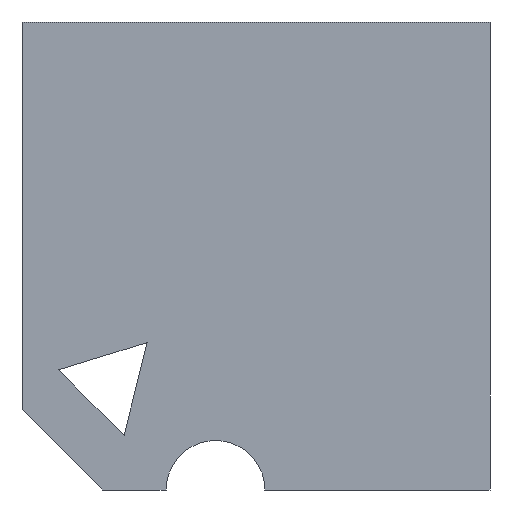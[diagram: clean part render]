
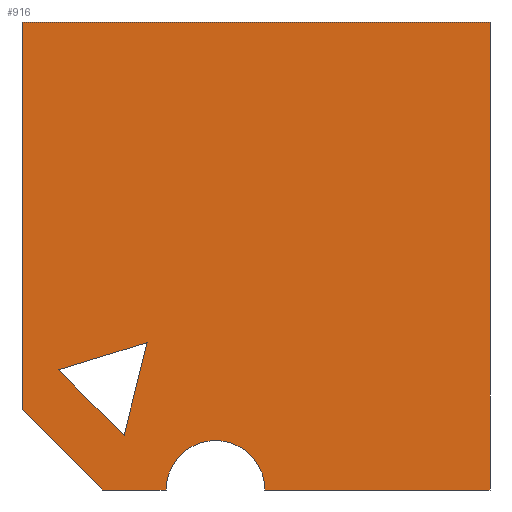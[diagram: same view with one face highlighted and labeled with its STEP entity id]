
A CAD part, left-side view. The second image highlights one B-rep face of the part: STEP entity #916.
In plain terms, the highlighted planar face has unit normal (-1, 0, 0).
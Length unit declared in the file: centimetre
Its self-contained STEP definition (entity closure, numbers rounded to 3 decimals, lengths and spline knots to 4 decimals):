
#15 = DIRECTION ( 'NONE',  ( 0., -0.24, 0.971 ) ) ;
#20 = VECTOR ( 'NONE', #537, 100. ) ;
#26 = LINE ( 'NONE', #142, #1390 ) ;
#52 = VERTEX_POINT ( 'NONE', #148 ) ;
#54 = FACE_BOUND ( 'NONE', #708, .T. ) ;
#62 = AXIS2_PLACEMENT_3D ( 'NONE', #840, #273, #731 ) ;
#68 = CARTESIAN_POINT ( 'NONE',  ( 0., 921.3283, 256.5759 ) ) ;
#98 = EDGE_CURVE ( 'NONE', #654, #756, #26, .T. ) ;
#102 = CARTESIAN_POINT ( 'NONE',  ( 0., 1000., 1000. ) ) ;
#107 = ORIENTED_EDGE ( 'NONE', *, *, #764, .F. ) ;
#129 = CARTESIAN_POINT ( 'NONE',  ( 0., 827.7221, 0. ) ) ;
#137 = VECTOR ( 'NONE', #15, 100. ) ;
#141 = EDGE_CURVE ( 'NONE', #1105, #931, #1100, .T. ) ;
#142 = CARTESIAN_POINT ( 'NONE',  ( 0., 1000., 172.2779 ) ) ;
#147 = CARTESIAN_POINT ( 'NONE',  ( 0., 692.2294, 0. ) ) ;
#148 = CARTESIAN_POINT ( 'NONE',  ( 0., 480.7882, 0. ) ) ;
#149 = EDGE_CURVE ( 'NONE', #1339, #654, #420, .T. ) ;
#209 = LINE ( 'NONE', #1422, #606 ) ;
#244 = ORIENTED_EDGE ( 'NONE', *, *, #149, .T. ) ;
#273 = DIRECTION ( 'NONE',  ( 1., 0., 0. ) ) ;
#277 = EDGE_CURVE ( 'NONE', #1339, #1360, #209, .T. ) ;
#297 = LINE ( 'NONE', #1291, #390 ) ;
#304 = DIRECTION ( 'NONE',  ( 0., 0.955, -0.297 ) ) ;
#310 = DIRECTION ( 'NONE',  ( 0., -1., 0. ) ) ;
#390 = VECTOR ( 'NONE', #505, 100. ) ;
#394 = PLANE ( 'NONE',  #62 ) ;
#415 = EDGE_CURVE ( 'NONE', #52, #1007, #297, .T. ) ;
#420 = LINE ( 'NONE', #1328, #20 ) ;
#425 = EDGE_CURVE ( 'NONE', #666, #52, #1323, .T. ) ;
#434 = CARTESIAN_POINT ( 'NONE',  ( 0., 732.7352, 315.2749 ) ) ;
#436 = AXIS2_PLACEMENT_3D ( 'NONE', #1074, #524, #967 ) ;
#456 = ORIENTED_EDGE ( 'NONE', *, *, #712, .F. ) ;
#457 = VERTEX_POINT ( 'NONE', #643 ) ;
#488 = VECTOR ( 'NONE', #695, 100. ) ;
#505 = DIRECTION ( 'NONE',  ( 0., -1., 0. ) ) ;
#510 = CARTESIAN_POINT ( 'NONE',  ( 0., 921.3283, 256.5759 ) ) ;
#524 = DIRECTION ( 'NONE',  ( 1., 0., 0. ) ) ;
#532 = EDGE_CURVE ( 'NONE', #756, #666, #1343, .T. ) ;
#537 = DIRECTION ( 'NONE',  ( 0., 0., -1. ) ) ;
#540 = LINE ( 'NONE', #68, #1107 ) ;
#558 = EDGE_LOOP ( 'NONE', ( #1005, #848, #989, #107, #1045, #244, #1006 ) ) ;
#559 = ORIENTED_EDGE ( 'NONE', *, *, #141, .F. ) ;
#560 = ORIENTED_EDGE ( 'NONE', *, *, #1162, .F. ) ;
#572 = CARTESIAN_POINT ( 'NONE',  ( 0., 0., 1000. ) ) ;
#594 = CARTESIAN_POINT ( 'NONE',  ( 0., 0., 0. ) ) ;
#603 = CARTESIAN_POINT ( 'NONE',  ( 0., 0., 1000. ) ) ;
#606 = VECTOR ( 'NONE', #310, 100. ) ;
#643 = CARTESIAN_POINT ( 'NONE',  ( 0., 781.7742, 117.0218 ) ) ;
#654 = VERTEX_POINT ( 'NONE', #1146 ) ;
#666 = VERTEX_POINT ( 'NONE', #147 ) ;
#695 = DIRECTION ( 'NONE',  ( 0., 0., -1. ) ) ;
#708 = EDGE_LOOP ( 'NONE', ( #560, #559, #456 ) ) ;
#712 = EDGE_CURVE ( 'NONE', #457, #1105, #1034, .T. ) ;
#731 = DIRECTION ( 'NONE',  ( 0., 0., -1. ) ) ;
#756 = VERTEX_POINT ( 'NONE', #129 ) ;
#764 = EDGE_CURVE ( 'NONE', #1360, #1007, #805, .T. ) ;
#805 = LINE ( 'NONE', #603, #488 ) ;
#840 = CARTESIAN_POINT ( 'NONE',  ( 0., 1000., 1000. ) ) ;
#848 = ORIENTED_EDGE ( 'NONE', *, *, #425, .T. ) ;
#873 = CARTESIAN_POINT ( 'NONE',  ( 0., 1000., 0. ) ) ;
#916 = ADVANCED_FACE ( 'NONE', ( #54, #944 ), #394, .F. ) ;
#931 = VERTEX_POINT ( 'NONE', #510 ) ;
#944 = FACE_OUTER_BOUND ( 'NONE', #558, .T. ) ;
#967 = DIRECTION ( 'NONE',  ( 0., 0., -1. ) ) ;
#989 = ORIENTED_EDGE ( 'NONE', *, *, #415, .T. ) ;
#1005 = ORIENTED_EDGE ( 'NONE', *, *, #532, .T. ) ;
#1006 = ORIENTED_EDGE ( 'NONE', *, *, #98, .T. ) ;
#1007 = VERTEX_POINT ( 'NONE', #594 ) ;
#1017 = VECTOR ( 'NONE', #304, 100. ) ;
#1034 = LINE ( 'NONE', #1262, #137 ) ;
#1045 = ORIENTED_EDGE ( 'NONE', *, *, #277, .F. ) ;
#1059 = DIRECTION ( 'NONE',  ( 0., -0.707, -0.707 ) ) ;
#1074 = CARTESIAN_POINT ( 'NONE',  ( 0., 586.5088, 0. ) ) ;
#1100 = LINE ( 'NONE', #434, #1017 ) ;
#1105 = VERTEX_POINT ( 'NONE', #1361 ) ;
#1107 = VECTOR ( 'NONE', #1059, 100. ) ;
#1138 = VECTOR ( 'NONE', #1208, 100. ) ;
#1146 = CARTESIAN_POINT ( 'NONE',  ( 0., 1000., 172.2779 ) ) ;
#1162 = EDGE_CURVE ( 'NONE', #931, #457, #540, .T. ) ;
#1208 = DIRECTION ( 'NONE',  ( 0., -1., 0. ) ) ;
#1262 = CARTESIAN_POINT ( 'NONE',  ( 0., 781.7742, 117.0218 ) ) ;
#1269 = DIRECTION ( 'NONE',  ( 0., -0.707, -0.707 ) ) ;
#1291 = CARTESIAN_POINT ( 'NONE',  ( 0., 1000., 0. ) ) ;
#1323 = CIRCLE ( 'NONE', #436, 105.7206 ) ;
#1328 = CARTESIAN_POINT ( 'NONE',  ( 0., 1000., 1000. ) ) ;
#1339 = VERTEX_POINT ( 'NONE', #102 ) ;
#1343 = LINE ( 'NONE', #873, #1138 ) ;
#1360 = VERTEX_POINT ( 'NONE', #572 ) ;
#1361 = CARTESIAN_POINT ( 'NONE',  ( 0., 732.7352, 315.2749 ) ) ;
#1390 = VECTOR ( 'NONE', #1269, 100. ) ;
#1422 = CARTESIAN_POINT ( 'NONE',  ( 0., 1000., 1000. ) ) ;
